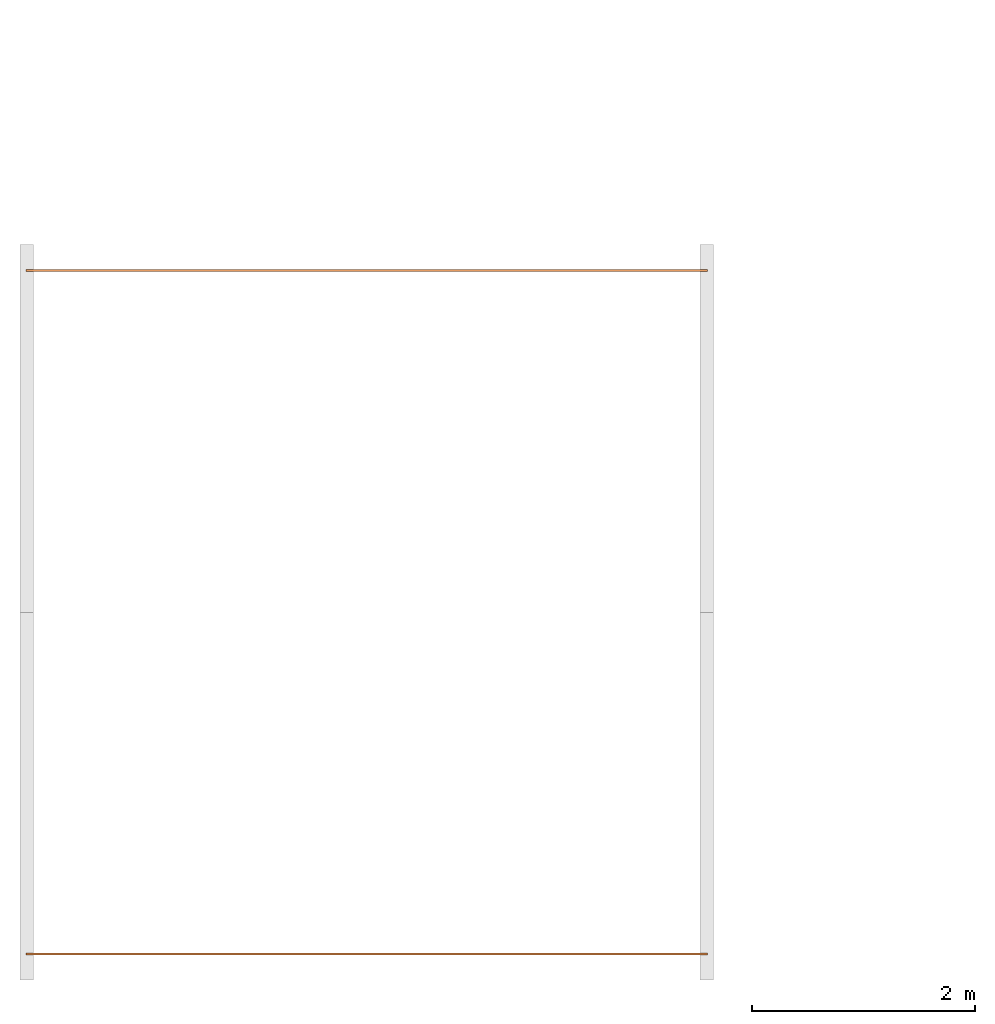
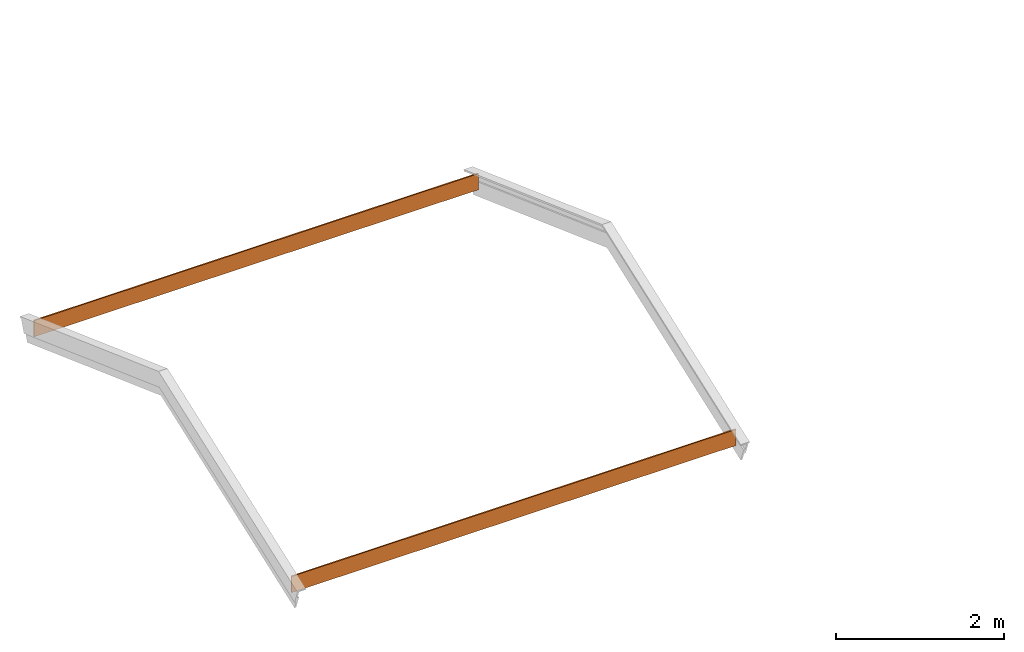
# One storey, part 1 of 2: 1 proxy.
"""IFC2X3 building model written with IfcOpenShell, lengths in millimetres."""

import ifcopenshell
import ifcopenshell.guid

model = None  # the IFC model being written
_history = None  # IfcOwnerHistory: only IFC2X3 demands one
_inside = {}  # id of a spatial element -> (the spatial element, [elements in it])
_under = {}  # id of a project, library or spatial element -> (it, [spatial elements below it])
_declared = {}  # id of a project -> (the project, [libraries it declares])
_typed = {}  # id of a type object -> (the type object, [elements of that type])
_made_of = {}  # id of a material, layer set ... -> (it, [elements and type objects made of it])


def new_model(schema):
    """Start an empty IFC model of exactly this schema.

    Asked for "IFC4X3", IfcOpenShell would pick the latest addendum, in which some entities
    have other attributes; the version numbers below select the first issue.
    IFC2X3 requires an IfcOwnerHistory on every rooted entity: one is made here for all.
    """
    global model, _history
    if schema == "IFC4X3":
        model = ifcopenshell.file(schema_version=(4, 3, 0, 0))
    else:
        model = ifcopenshell.file(schema=schema)
    _inside.clear()
    _under.clear()
    _declared.clear()
    _typed.clear()
    _made_of.clear()
    _history = None
    if model.schema == "IFC2X3":
        org = make("IfcOrganization", Name="unknown")
        user = make(
            "IfcPersonAndOrganization",
            ThePerson=make("IfcPerson", FamilyName="unknown"),
            TheOrganization=org,
        )
        app = make(
            "IfcApplication",
            ApplicationDeveloper=org,
            Version="unknown",
            ApplicationFullName="unknown",
            ApplicationIdentifier="unknown",
        )
        _history = make(
            "IfcOwnerHistory",
            OwningUser=user,
            OwningApplication=app,
            ChangeAction="ADDED",
            CreationDate=0,
        )
    return model


def make(cls, **values):
    """One entity of the class cls with the attributes given. An attribute that is None is left unset."""
    return model.create_entity(
        cls, **{name: value for name, value in values.items() if value is not None}
    )


def entity(cls, *values):
    """Any entity or typed value of the class cls, its attributes in the order of the schema. None: left unset."""
    e = model.create_entity(cls)
    for i, value in enumerate(values):
        if value is not None:
            e[i] = value
    return e


def rooted(cls, **values):
    """An entity with a GlobalId (a new one), such as an element, a storey or a relation."""
    return make(cls, GlobalId=ifcopenshell.guid.new(), OwnerHistory=_history, **values)


def si_unit(unit_type, name, prefix=None):
    """IfcSIUnit, for example si_unit("LENGTHUNIT", "METRE", prefix="MILLI")."""
    return make("IfcSIUnit", UnitType=unit_type, Prefix=prefix, Name=name)


def converted_unit(unit_type, name, factor, base, dimensions=None, offset=None):
    """IfcConversionBasedUnit, such as the inch: factor (a typed value) times the base unit."""
    return make(
        "IfcConversionBasedUnit"
        if offset is None
        else "IfcConversionBasedUnitWithOffset",
        ConversionOffset=offset,
        Dimensions=None
        if dimensions is None
        else entity("IfcDimensionalExponents", *dimensions),
        UnitType=unit_type,
        Name=name,
        ConversionFactor=make(
            "IfcMeasureWithUnit", ValueComponent=factor, UnitComponent=base
        ),
    )


def derived_unit(unit_type, elements):
    """IfcDerivedUnit: a product of units, each with its exponent."""
    return make(
        "IfcDerivedUnit",
        Elements=[
            make("IfcDerivedUnitElement", Unit=unit, Exponent=power)
            for unit, power in elements
        ],
        UnitType=unit_type,
    )


def assignment(units):
    """IfcUnitAssignment: the units of a project."""
    return None if units is None else make("IfcUnitAssignment", Units=units)


def point(xyz):
    """IfcCartesianPoint."""
    return None if xyz is None else make("IfcCartesianPoint", Coordinates=xyz)


def direction(xyz):
    """IfcDirection."""
    return None if xyz is None else make("IfcDirection", DirectionRatios=xyz)


def frame(location, z_axis=None, x_axis=None):
    """IfcAxis2Placement3D, a coordinate frame: its origin and axes. An axis left out is left unset."""
    return make(
        "IfcAxis2Placement3D",
        Location=point(location),
        Axis=direction(z_axis),
        RefDirection=direction(x_axis),
    )


def frame_2d(location, x_axis=None):
    """IfcAxis2Placement2D, a coordinate frame in the plane: its origin and x axis."""
    return make(
        "IfcAxis2Placement2D", Location=point(location), RefDirection=direction(x_axis)
    )


def origin():
    """The frame at (0, 0, 0) with its axes left unset."""
    return frame((0.0, 0.0, 0.0))


def origin_2d_with_axis():
    """The frame at (0, 0) in the plane with the x axis (1, 0) written out."""
    return frame_2d((0.0, 0.0), x_axis=(1.0, 0.0))


def place(relative_to, where):
    """IfcLocalPlacement: puts the frame where relative to a parent placement (None: the world)."""
    return make(
        "IfcLocalPlacement", PlacementRelTo=relative_to, RelativePlacement=where
    )


def context(
    kind, dimensions, precision=None, world=None, true_north=None, identifier=None
):
    """IfcGeometricRepresentationContext, for example the 3D "Model" context."""
    return make(
        "IfcGeometricRepresentationContext",
        ContextIdentifier=identifier,
        ContextType=kind,
        CoordinateSpaceDimension=dimensions,
        Precision=precision,
        WorldCoordinateSystem=world,
        TrueNorth=true_north,
    )


def subcontext(parent, identifier, kind, view, scale=None):
    """IfcGeometricRepresentationSubContext, for example "Body" below "Model"."""
    return make(
        "IfcGeometricRepresentationSubContext",
        ContextIdentifier=identifier,
        ContextType=kind,
        ParentContext=parent,
        TargetScale=scale,
        TargetView=view,
    )


def project(units=None, contexts=None):
    """IfcProject with its units and contexts."""
    return rooted(
        "IfcProject",
        Name="project",
        RepresentationContexts=contexts,
        UnitsInContext=assignment(units),
    )


def spatial(cls, under=None, at=None, **own):
    """A site, building, storey or space (cls), placed at a placement, below another one or the project."""
    s = rooted(cls, ObjectPlacement=at, **own)
    if under is not None:
        _under.setdefault(under.id(), (under, []))[1].append(s)
    return s


def profile(cls, at=None, kind="AREA", **sizes):
    """A parametric profile (cls). Its sizes go by their IFC names, for example OverallWidth=200.0."""
    return make(cls, ProfileType=kind, Position=at, **sizes)


def rectangle(**sizes):
    """IfcRectangleProfileDef."""
    return profile("IfcRectangleProfileDef", **sizes)


def extrude(swept, where, along, depth):
    """IfcExtrudedAreaSolid: the profile swept, set in the frame where, extruded along a direction by depth."""
    return make(
        "IfcExtrudedAreaSolid",
        SweptArea=swept,
        Position=where,
        ExtrudedDirection=direction(along),
        Depth=depth,
    )


def shape(context_of_items, identifier, shape_type, items):
    """IfcShapeRepresentation: the items that make up one representation, for example the "Body"."""
    return make(
        "IfcShapeRepresentation",
        ContextOfItems=context_of_items,
        RepresentationIdentifier=identifier,
        RepresentationType=shape_type,
        Items=items,
    )


def made_of(thing, what):
    """Note that an element or type object is made of a material, layer set ...; save() writes the relation."""
    if what is not None:
        _made_of.setdefault(what.id(), (what, []))[1].append(thing)
    return thing


def type_object(cls, material=None, **own):
    """A type object (cls), such as IfcWallType, which elements share."""
    return made_of(rooted(cls, **own), material)


def element(
    cls,
    number,
    at=None,
    inside=None,
    cuts=None,
    type_object=None,
    material=None,
    context=None,
    identifier="Body",
    shape_type=None,
    held_by="IfcProductDefinitionShape",
    body=None,
    shapes=None,
    **own,
):
    """One element of the class cls, such as IfcWall. Its Tag is "e" and its number.

    at: its placement. inside: the storey or other place that contains it. cuts: it is an
    opening in that element (IfcRelVoidsElement). A single representation is given by context,
    identifier, shape_type and body (its items); several are given by shapes. held_by: the class
    of the entity that holds the representations. save() writes the other relations.
    """
    e = rooted(cls, Tag="e%d" % number, ObjectPlacement=at, **own)
    if body is not None:
        shapes = [shape(context, identifier, shape_type, body)]
    if shapes is not None:
        e.Representation = make(held_by, Representations=shapes)
    if inside is not None:
        _inside.setdefault(inside.id(), (inside, []))[1].append(e)
    if cuts is not None:
        rooted(
            "IfcRelVoidsElement", RelatingBuildingElement=cuts, RelatedOpeningElement=e
        )
    if type_object is not None:
        _typed.setdefault(type_object.id(), (type_object, []))[1].append(e)
    return made_of(e, material)


def aggregate(whole, parts):
    """IfcRelAggregates: a whole, such as a stair, and the parts it consists of."""
    return rooted("IfcRelAggregates", RelatingObject=whole, RelatedObjects=parts)


def save(model, path):
    """Write the relations noted so far, then the file.

    IfcRelAggregates (storeys below a building ...), IfcRelContainedInSpatialStructure (elements
    in a storey), IfcRelDefinesByType, IfcRelAssociatesMaterial and IfcRelDeclares: one each for
    every whole, place, type object, material and project.
    """
    for whole, parts in _under.values():
        aggregate(whole, parts)
    for where, things in _inside.values():
        rooted(
            "IfcRelContainedInSpatialStructure",
            RelatedElements=things,
            RelatingStructure=where,
        )
    for kind, things in _typed.values():
        rooted("IfcRelDefinesByType", RelatedObjects=things, RelatingType=kind)
    for what, things in _made_of.values():
        rooted("IfcRelAssociatesMaterial", RelatedObjects=things, RelatingMaterial=what)
    for by, libraries in _declared.values():
        rooted("IfcRelDeclares", RelatingContext=by, RelatedDefinitions=libraries)
    model.write(path)


model = new_model("IFC2X3")

# Units and contexts
model_context = context("Model", 3, precision=0.01, world=origin(), true_north=direction((6.123031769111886e-17, 1.0)))
body_context = subcontext(model_context, "Body", "Model", "MODEL_VIEW")
ifc_project = project(units=[si_unit("LENGTHUNIT", "METRE", prefix="MILLI"), si_unit("AREAUNIT", "SQUARE_METRE"), si_unit("VOLUMEUNIT", "CUBIC_METRE"), converted_unit("PLANEANGLEUNIT", "DEGREE", entity("IfcRatioMeasure", 0.017453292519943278), si_unit("PLANEANGLEUNIT", "RADIAN"), dimensions=[0, 0, 0, 0, 0, 0, 0]), si_unit("MASSUNIT", "GRAM", prefix="KILO"), derived_unit("MASSDENSITYUNIT", [(si_unit("MASSUNIT", "GRAM", prefix="KILO"), 1), (si_unit("LENGTHUNIT", "METRE"), -3)]), derived_unit("IONCONCENTRATIONUNIT", [(si_unit("MASSUNIT", "GRAM", prefix="KILO"), 1), (si_unit("LENGTHUNIT", "METRE"), -3)]), derived_unit("MOMENTOFINERTIAUNIT", [(si_unit("LENGTHUNIT", "METRE"), 4)]), si_unit("TIMEUNIT", "SECOND"), si_unit("FREQUENCYUNIT", "HERTZ"), si_unit("THERMODYNAMICTEMPERATUREUNIT", "DEGREE_CELSIUS"), derived_unit("THERMALTRANSMITTANCEUNIT", [(si_unit("MASSUNIT", "GRAM", prefix="KILO"), 1), (si_unit("THERMODYNAMICTEMPERATUREUNIT", "KELVIN"), -1), (si_unit("TIMEUNIT", "SECOND"), -3)]), derived_unit("THERMALCONDUCTANCEUNIT", [(si_unit("MASSUNIT", "GRAM", prefix="KILO"), 1), (si_unit("THERMODYNAMICTEMPERATUREUNIT", "KELVIN"), -1), (si_unit("TIMEUNIT", "SECOND"), -3), (si_unit("LENGTHUNIT", "METRE"), 1)]), derived_unit("VOLUMETRICFLOWRATEUNIT", [(si_unit("LENGTHUNIT", "METRE"), 3), (si_unit("TIMEUNIT", "SECOND"), -1)]), derived_unit("MASSFLOWRATEUNIT", [(si_unit("MASSUNIT", "GRAM", prefix="KILO"), 1), (si_unit("TIMEUNIT", "SECOND"), -1)]), derived_unit("ROTATIONALFREQUENCYUNIT", [(si_unit("TIMEUNIT", "SECOND"), -1)]), si_unit("ELECTRICCURRENTUNIT", "AMPERE"), si_unit("ELECTRICVOLTAGEUNIT", "VOLT"), si_unit("POWERUNIT", "WATT"), si_unit("FORCEUNIT", "NEWTON", prefix="KILO"), si_unit("ILLUMINANCEUNIT", "LUX"), si_unit("LUMINOUSFLUXUNIT", "LUMEN"), si_unit("LUMINOUSINTENSITYUNIT", "CANDELA"), derived_unit("USERDEFINED", [(si_unit("MASSUNIT", "GRAM", prefix="KILO"), -1), (si_unit("LENGTHUNIT", "METRE"), -2), (si_unit("TIMEUNIT", "SECOND"), 3), (si_unit("LUMINOUSFLUXUNIT", "LUMEN"), 1)]), derived_unit("USERDEFINED", [(si_unit("MASSUNIT", "GRAM", prefix="KILO"), 1), (si_unit("TIMEUNIT", "SECOND"), -3), (si_unit("LENGTHUNIT", "METRE"), 3), (si_unit("ELECTRICCURRENTUNIT", "AMPERE"), -2)]), derived_unit("SOUNDPOWERUNIT", [(si_unit("MASSUNIT", "GRAM", prefix="KILO"), 1), (si_unit("TIMEUNIT", "SECOND"), -3), (si_unit("LENGTHUNIT", "METRE"), 2)]), derived_unit("SOUNDPRESSUREUNIT", [(si_unit("MASSUNIT", "GRAM", prefix="KILO"), 1), (si_unit("LENGTHUNIT", "METRE"), -1), (si_unit("TIMEUNIT", "SECOND"), -2)]), derived_unit("LINEARVELOCITYUNIT", [(si_unit("LENGTHUNIT", "METRE"), 1), (si_unit("TIMEUNIT", "SECOND"), -1)]), si_unit("PRESSUREUNIT", "PASCAL"), derived_unit("USERDEFINED", [(si_unit("MASSUNIT", "GRAM", prefix="KILO"), 1), (si_unit("LENGTHUNIT", "METRE"), -2), (si_unit("TIMEUNIT", "SECOND"), -2)]), derived_unit("LINEARFORCEUNIT", [(si_unit("MASSUNIT", "GRAM", prefix="KILO"), 1), (si_unit("TIMEUNIT", "SECOND"), -2)]), derived_unit("PLANARFORCEUNIT", [(si_unit("MASSUNIT", "GRAM", prefix="KILO"), 1), (si_unit("LENGTHUNIT", "METRE"), -1), (si_unit("TIMEUNIT", "SECOND"), -2)]), derived_unit("SPECIFICHEATCAPACITYUNIT", [(si_unit("THERMODYNAMICTEMPERATUREUNIT", "KELVIN"), -1), (si_unit("LENGTHUNIT", "METRE"), 2), (si_unit("TIMEUNIT", "SECOND"), -2)]), derived_unit("HEATINGVALUEUNIT", [(si_unit("LENGTHUNIT", "METRE"), 2), (si_unit("TIMEUNIT", "SECOND"), -2)]), derived_unit("VAPORPERMEABILITYUNIT", [(si_unit("LENGTHUNIT", "METRE"), -1), (si_unit("TIMEUNIT", "SECOND"), 1)]), derived_unit("DYNAMICVISCOSITYUNIT", [(si_unit("MASSUNIT", "GRAM", prefix="KILO"), 1), (si_unit("TIMEUNIT", "SECOND"), -1), (si_unit("LENGTHUNIT", "METRE"), -1)]), derived_unit("THERMALEXPANSIONCOEFFICIENTUNIT", [(si_unit("THERMODYNAMICTEMPERATUREUNIT", "KELVIN"), -1)]), derived_unit("MODULUSOFELASTICITYUNIT", [(si_unit("MASSUNIT", "GRAM", prefix="KILO"), 1), (si_unit("LENGTHUNIT", "METRE"), -1), (si_unit("TIMEUNIT", "SECOND"), -2)]), derived_unit("ISOTHERMALMOISTURECAPACITYUNIT", [(si_unit("LENGTHUNIT", "METRE"), 3), (si_unit("MASSUNIT", "GRAM", prefix="KILO"), -1)]), derived_unit("MOISTUREDIFFUSIVITYUNIT", [(si_unit("TIMEUNIT", "SECOND"), -1), (si_unit("LENGTHUNIT", "METRE"), 2)])], contexts=[model_context])

# Site, building, storey
site_placement = place(None, origin())
site = spatial("IfcSite", under=ifc_project, at=site_placement, Name="IFCSITE", CompositionType="ELEMENT")
building_placement = place(site_placement, origin())
building = spatial("IfcBuilding", under=site, at=building_placement, CompositionType="ELEMENT")
storey_placement = place(building_placement, frame((0.0, 0.0, 6000.0)))
storey = spatial("IfcBuildingStorey", under=building, at=storey_placement, Name="Plan 02", CompositionType="ELEMENT", Elevation=5999.999999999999)

# Proxy
building_element_proxy_type = type_object("IfcBuildingElementProxyType", Name="Fascia:Vindski - 1 bord 235mm", PredefinedType="NOTDEFINED")
proxy_placement = place(storey_placement, origin())
element("IfcBuildingElementProxy", 1, at=proxy_placement, inside=storey, type_object=building_element_proxy_type, Name="Fascia:Vindski - 1 bord 235mm", ObjectType="Fascia:Vindski - 1 bord 235mm", context=body_context, shape_type="SweptSolid", body=[
    extrude(rectangle(XDim=6121.999999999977, YDim=19.00000000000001, at=origin_2d_with_axis()), frame((-57727.513378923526, -9158.425170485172, 502.413763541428), z_axis=(0.0, 0.0, 1.0), x_axis=(-1.0, 0.0, 0.0)), (0.0, 0.0, 1.0), 234.99999999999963),
    extrude(rectangle(XDim=6121.999999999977, YDim=19.00000000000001, at=frame_2d((-8.640199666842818e-12, 0.0), x_axis=(1.0, 0.0))), frame((-57727.513378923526, -15299.425170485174, 502.41376354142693)), (0.0, 0.0, 1.0), 235.0000000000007),
])

save(model, "model.ifc")
